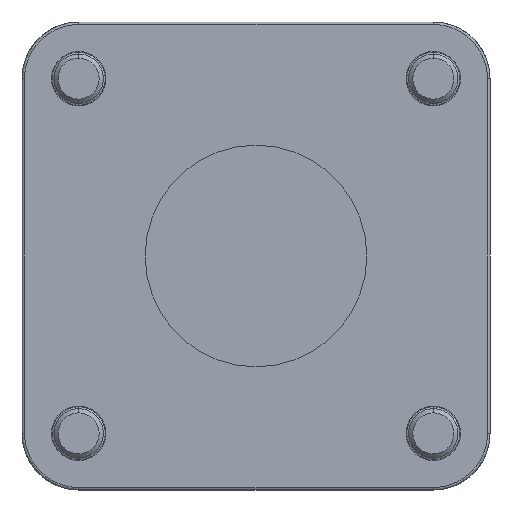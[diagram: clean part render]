
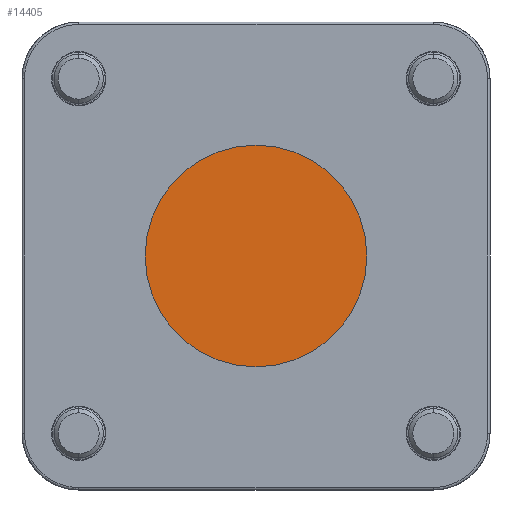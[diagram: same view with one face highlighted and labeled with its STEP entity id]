
A CAD part, front view. The second image highlights one B-rep face of the part: STEP entity #14405.
In plain terms, the highlighted planar face has unit normal (0, -1, 0).
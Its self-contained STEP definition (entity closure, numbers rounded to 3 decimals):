
#13 = EDGE_LOOP ( 'NONE', ( #15553, #6383 ) ) ;
#564 = DIRECTION ( 'NONE',  ( 0., 0., -1. ) ) ;
#1937 = PLANE ( 'NONE',  #27946 ) ;
#6096 = CARTESIAN_POINT ( 'NONE',  ( 0., 5., -22.5 ) ) ;
#6383 = ORIENTED_EDGE ( 'NONE', *, *, #9036, .T. ) ;
#7226 = DIRECTION ( 'NONE',  ( 0., -1., 0. ) ) ;
#7956 = AXIS2_PLACEMENT_3D ( 'NONE', #20711, #24734, #564 ) ;
#8612 = CARTESIAN_POINT ( 'NONE',  ( 0., 5., 22.5 ) ) ;
#9036 = EDGE_CURVE ( 'NONE', #10878, #17827, #21898, .T. ) ;
#10878 = VERTEX_POINT ( 'NONE', #8612 ) ;
#13055 = DIRECTION ( 'NONE',  ( 0., -1., 0. ) ) ;
#14405 = ADVANCED_FACE ( 'NONE', ( #27966 ), #1937, .T. ) ;
#15553 = ORIENTED_EDGE ( 'NONE', *, *, #21646, .T. ) ;
#16176 = CARTESIAN_POINT ( 'NONE',  ( 0., 5., 0. ) ) ;
#17368 = CARTESIAN_POINT ( 'NONE',  ( 0., 5., 0. ) ) ;
#17827 = VERTEX_POINT ( 'NONE', #6096 ) ;
#20711 = CARTESIAN_POINT ( 'NONE',  ( 0., 5., 0. ) ) ;
#21646 = EDGE_CURVE ( 'NONE', #17827, #10878, #25032, .T. ) ;
#21898 = CIRCLE ( 'NONE', #28389, 22.5 ) ;
#22702 = DIRECTION ( 'NONE',  ( 0., 0., -1. ) ) ;
#24734 = DIRECTION ( 'NONE',  ( 0., -1., 0. ) ) ;
#25032 = CIRCLE ( 'NONE', #7956, 22.5 ) ;
#27946 = AXIS2_PLACEMENT_3D ( 'NONE', #17368, #13055, #28400 ) ;
#27966 = FACE_OUTER_BOUND ( 'NONE', #13, .T. ) ;
#28389 = AXIS2_PLACEMENT_3D ( 'NONE', #16176, #7226, #22702 ) ;
#28400 = DIRECTION ( 'NONE',  ( 0., 0., -1. ) ) ;
